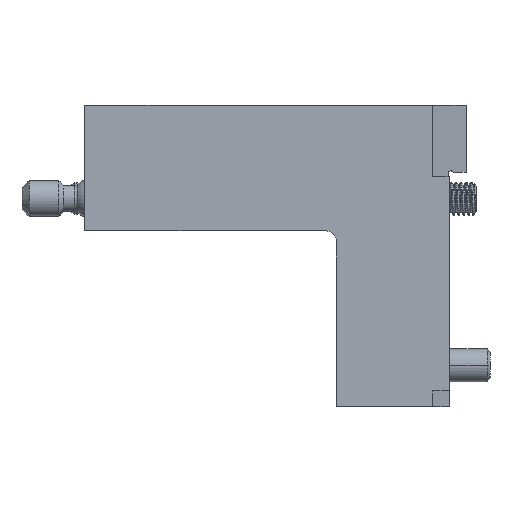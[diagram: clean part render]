
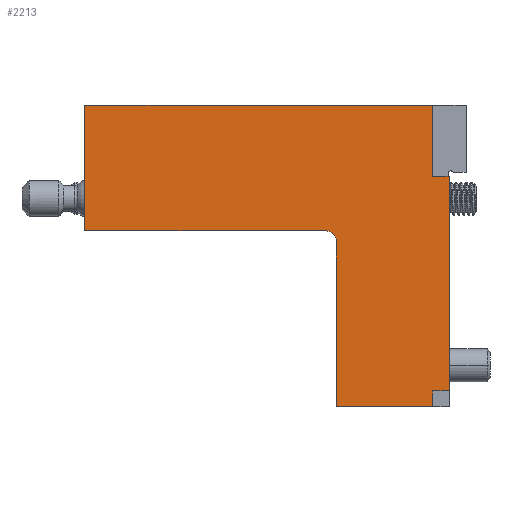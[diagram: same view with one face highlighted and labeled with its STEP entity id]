
A CAD part, left-side view. The second image highlights one B-rep face of the part: STEP entity #2213.
In plain terms, the highlighted planar face has unit normal (-1, 0, 0).
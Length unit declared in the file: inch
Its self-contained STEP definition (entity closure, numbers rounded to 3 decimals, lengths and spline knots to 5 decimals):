
#19 = CARTESIAN_POINT ( 'NONE',  ( -1.77165, 0.6, 0. ) ) ;
#535 = ORIENTED_EDGE ( 'NONE', *, *, #3700, .F. ) ;
#689 = VECTOR ( 'NONE', #12134, 39.37008 ) ;
#750 = DIRECTION ( 'NONE',  ( 1., 0., 0. ) ) ;
#893 = VERTEX_POINT ( 'NONE', #2544 ) ;
#976 = VECTOR ( 'NONE', #21638, 39.37008 ) ;
#1371 = ORIENTED_EDGE ( 'NONE', *, *, #2273, .T. ) ;
#1455 = VERTEX_POINT ( 'NONE', #12273 ) ;
#1964 = VERTEX_POINT ( 'NONE', #12933 ) ;
#2213 = ADVANCED_FACE ( 'NONE', ( #2976 ), #9514, .T. ) ;
#2273 = EDGE_CURVE ( 'NONE', #5845, #27335, #16721, .T. ) ;
#2544 = CARTESIAN_POINT ( 'NONE',  ( -1.77165, -0.75, 2.7385 ) ) ;
#2554 = ORIENTED_EDGE ( 'NONE', *, *, #10916, .T. ) ;
#2714 = CARTESIAN_POINT ( 'NONE',  ( -1.77165, -0.55, 2.75 ) ) ;
#2829 = EDGE_CURVE ( 'NONE', #3354, #893, #19648, .T. ) ;
#2976 = FACE_OUTER_BOUND ( 'NONE', #10667, .T. ) ;
#3113 = VERTEX_POINT ( 'NONE', #22854 ) ;
#3121 = CARTESIAN_POINT ( 'NONE',  ( -1.77165, -0.95, 3.6 ) ) ;
#3129 = AXIS2_PLACEMENT_3D ( 'NONE', #20187, #750, #9421 ) ;
#3354 = VERTEX_POINT ( 'NONE', #13081 ) ;
#3700 = EDGE_CURVE ( 'NONE', #3858, #3113, #12622, .T. ) ;
#3815 = DIRECTION ( 'NONE',  ( -1., 0., 0. ) ) ;
#3858 = VERTEX_POINT ( 'NONE', #26382 ) ;
#5176 = DIRECTION ( 'NONE',  ( 0., 1., 0. ) ) ;
#5362 = DIRECTION ( 'NONE',  ( 0., 1., 0. ) ) ;
#5454 = CARTESIAN_POINT ( 'NONE',  ( -1.77165, -0.55, 0.19 ) ) ;
#5845 = VERTEX_POINT ( 'NONE', #27467 ) ;
#6081 = DIRECTION ( 'NONE',  ( 0., 0., -1. ) ) ;
#6290 = LINE ( 'NONE', #19042, #13889 ) ;
#6687 = VERTEX_POINT ( 'NONE', #27509 ) ;
#6849 = AXIS2_PLACEMENT_3D ( 'NONE', #3121, #3815, #9922 ) ;
#7690 = CARTESIAN_POINT ( 'NONE',  ( -1.77165, -0.95, 2.75 ) ) ;
#8624 = ORIENTED_EDGE ( 'NONE', *, *, #17927, .T. ) ;
#8850 = VECTOR ( 'NONE', #24767, 39.37008 ) ;
#8942 = ORIENTED_EDGE ( 'NONE', *, *, #2829, .F. ) ;
#9421 = DIRECTION ( 'NONE',  ( 0., -1., 0. ) ) ;
#9514 = PLANE ( 'NONE',  #6849 ) ;
#9922 = DIRECTION ( 'NONE',  ( 0., -1., 0. ) ) ;
#10621 = CARTESIAN_POINT ( 'NONE',  ( -1.77165, 3.6, 2.1 ) ) ;
#10667 = EDGE_LOOP ( 'NONE', ( #15541, #11290, #24121, #26157, #535, #2554, #8624, #8942, #22077, #11105, #24627, #1371 ) ) ;
#10916 = EDGE_CURVE ( 'NONE', #3858, #1964, #16642, .T. ) ;
#10946 = VECTOR ( 'NONE', #18424, 39.37008 ) ;
#10993 = VECTOR ( 'NONE', #6081, 39.37008 ) ;
#11105 = ORIENTED_EDGE ( 'NONE', *, *, #11351, .T. ) ;
#11290 = ORIENTED_EDGE ( 'NONE', *, *, #25163, .T. ) ;
#11293 = LINE ( 'NONE', #26586, #26095 ) ;
#11351 = EDGE_CURVE ( 'NONE', #15431, #1455, #22011, .T. ) ;
#11399 = EDGE_CURVE ( 'NONE', #3354, #15431, #23365, .T. ) ;
#12036 = LINE ( 'NONE', #12448, #14550 ) ;
#12037 = EDGE_CURVE ( 'NONE', #1455, #5845, #11293, .T. ) ;
#12106 = VECTOR ( 'NONE', #22724, 39.37008 ) ;
#12134 = DIRECTION ( 'NONE',  ( 0., -1., 0. ) ) ;
#12273 = CARTESIAN_POINT ( 'NONE',  ( -1.77165, -0.55, 3.6 ) ) ;
#12448 = CARTESIAN_POINT ( 'NONE',  ( -1.77165, -0.95, 0. ) ) ;
#12622 = LINE ( 'NONE', #25508, #10993 ) ;
#12659 = CIRCLE ( 'NONE', #3129, 0.12 ) ;
#12933 = CARTESIAN_POINT ( 'NONE',  ( -1.77165, -0.75, 0.19 ) ) ;
#13081 = CARTESIAN_POINT ( 'NONE',  ( -1.77165, -0.74581, 2.75 ) ) ;
#13086 = EDGE_CURVE ( 'NONE', #6687, #27135, #13871, .T. ) ;
#13871 = LINE ( 'NONE', #20648, #8850 ) ;
#13889 = VECTOR ( 'NONE', #27561, 39.37008 ) ;
#14044 = VERTEX_POINT ( 'NONE', #18966 ) ;
#14550 = VECTOR ( 'NONE', #5362, 39.37008 ) ;
#15431 = VERTEX_POINT ( 'NONE', #16479 ) ;
#15541 = ORIENTED_EDGE ( 'NONE', *, *, #16160, .T. ) ;
#16160 = EDGE_CURVE ( 'NONE', #27335, #14044, #6290, .T. ) ;
#16479 = CARTESIAN_POINT ( 'NONE',  ( -1.77165, -0.55, 2.75 ) ) ;
#16642 = LINE ( 'NONE', #5454, #689 ) ;
#16721 = LINE ( 'NONE', #20833, #10946 ) ;
#17747 = DIRECTION ( 'NONE',  ( 0., 0., 1. ) ) ;
#17927 = EDGE_CURVE ( 'NONE', #1964, #893, #22586, .T. ) ;
#18424 = DIRECTION ( 'NONE',  ( 0., 0., -1. ) ) ;
#18587 = DIRECTION ( 'NONE',  ( 0., 1., 0. ) ) ;
#18736 = CARTESIAN_POINT ( 'NONE',  ( -1.77165, -0.75, 0. ) ) ;
#18966 = CARTESIAN_POINT ( 'NONE',  ( -1.77165, 0.72, 2.1 ) ) ;
#19042 = CARTESIAN_POINT ( 'NONE',  ( -1.77165, -0.95, 2.1 ) ) ;
#19073 = CARTESIAN_POINT ( 'NONE',  ( -1.77165, -0.73681, 2.77474 ) ) ;
#19648 = LINE ( 'NONE', #19073, #976 ) ;
#19721 = VECTOR ( 'NONE', #18587, 39.37008 ) ;
#20187 = CARTESIAN_POINT ( 'NONE',  ( -1.77165, 0.72, 1.98 ) ) ;
#20648 = CARTESIAN_POINT ( 'NONE',  ( -1.77165, 0.6, 6.74274 ) ) ;
#20833 = CARTESIAN_POINT ( 'NONE',  ( -1.77165, 3.6, 3.6 ) ) ;
#21638 = DIRECTION ( 'NONE',  ( 0., -0.342, -0.94 ) ) ;
#22011 = LINE ( 'NONE', #2714, #24715 ) ;
#22077 = ORIENTED_EDGE ( 'NONE', *, *, #11399, .T. ) ;
#22586 = LINE ( 'NONE', #18736, #12106 ) ;
#22724 = DIRECTION ( 'NONE',  ( 0., 0., 1. ) ) ;
#22854 = CARTESIAN_POINT ( 'NONE',  ( -1.77165, -0.55, 0. ) ) ;
#23365 = LINE ( 'NONE', #7690, #19721 ) ;
#24121 = ORIENTED_EDGE ( 'NONE', *, *, #13086, .T. ) ;
#24627 = ORIENTED_EDGE ( 'NONE', *, *, #12037, .T. ) ;
#24715 = VECTOR ( 'NONE', #17747, 39.37008 ) ;
#24767 = DIRECTION ( 'NONE',  ( 0., 0., -1. ) ) ;
#25163 = EDGE_CURVE ( 'NONE', #14044, #6687, #12659, .T. ) ;
#25508 = CARTESIAN_POINT ( 'NONE',  ( -1.77165, -0.55, 0.19 ) ) ;
#26095 = VECTOR ( 'NONE', #5176, 39.37008 ) ;
#26157 = ORIENTED_EDGE ( 'NONE', *, *, #27508, .F. ) ;
#26382 = CARTESIAN_POINT ( 'NONE',  ( -1.77165, -0.55, 0.19 ) ) ;
#26586 = CARTESIAN_POINT ( 'NONE',  ( -1.77165, -0.95, 3.6 ) ) ;
#27135 = VERTEX_POINT ( 'NONE', #19 ) ;
#27335 = VERTEX_POINT ( 'NONE', #10621 ) ;
#27467 = CARTESIAN_POINT ( 'NONE',  ( -1.77165, 3.6, 3.6 ) ) ;
#27508 = EDGE_CURVE ( 'NONE', #3113, #27135, #12036, .T. ) ;
#27509 = CARTESIAN_POINT ( 'NONE',  ( -1.77165, 0.6, 1.98 ) ) ;
#27561 = DIRECTION ( 'NONE',  ( 0., -1., 0. ) ) ;
